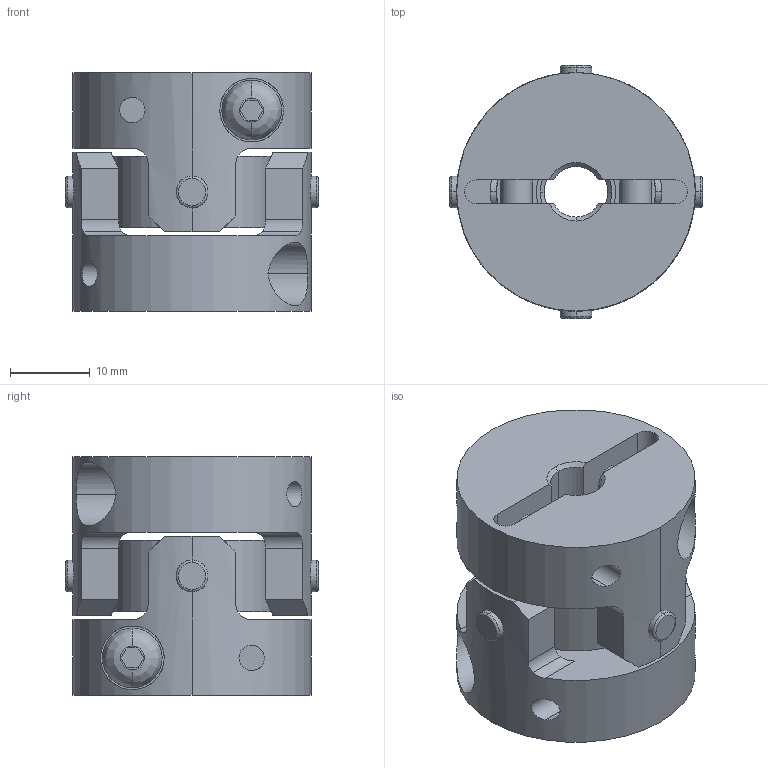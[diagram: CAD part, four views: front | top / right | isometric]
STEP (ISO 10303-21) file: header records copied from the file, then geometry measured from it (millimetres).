
FILE_DESCRIPTION((''),'2;1');
FILE_NAME('UA-30C-6.35×8.stp','2013-11-12T14:39:01',(''),(''),'AutoCAD STEP 2000i','AutoCAD 2000i',', , ');
FILE_SCHEMA(('CONFIG_CONTROL_DESIGN'));
Length unit declared in the file: millimetre
Products named in the file (6): UA-30C-6×6; 忣兜1; UA-3002-D06-1; BTN-M4; UA-3002-D06; UA30-SEN
Assembly tree (6 placements, depth 3):
  UA-30C-6×6
    忣兜1
    UA-3002-D06-1
      BTN-M4
    UA-3002-D06
      BTN-M4
    UA30-SEN
Bounding box: 31.82 x 31.82 x 30 mm (x, y, z)
Volume: 14823.1 mm3; surface area: 8901.5 mm2
Topology: 1 solids, 1 shells, 206 faces, 554 edges, 364 vertices
Faces by surface type: cylinder 96, plane 78, cone 16, bspline 8, torus 8
Entity records: 8479 total; most frequent: CARTESIAN_POINT 3163, ORIENTED_EDGE 1108, DIRECTION 1064, EDGE_CURVE 554, AXIS2_PLACEMENT_3D 409, VERTEX_POINT 364, VECTOR 246, LINE 246
